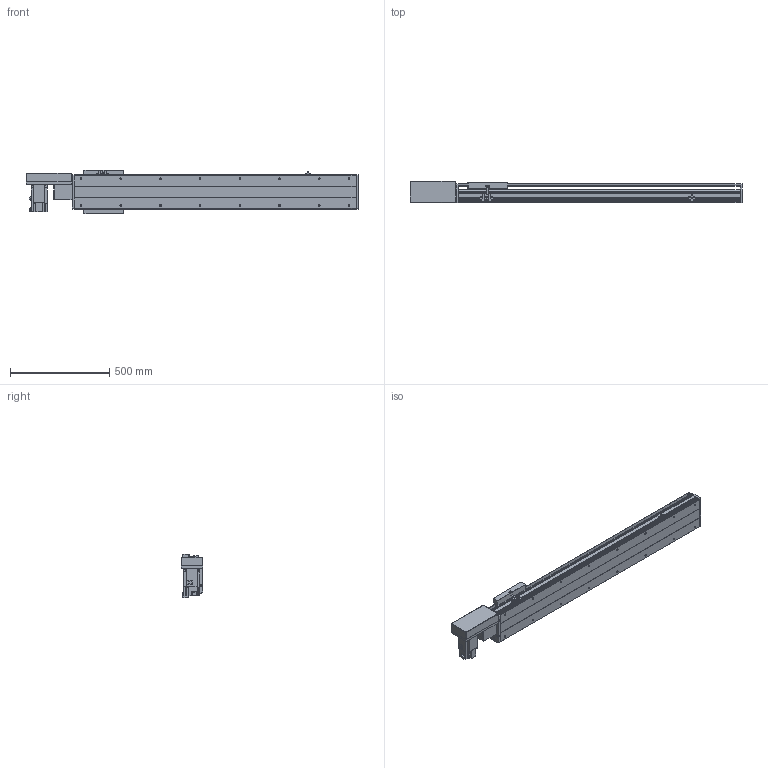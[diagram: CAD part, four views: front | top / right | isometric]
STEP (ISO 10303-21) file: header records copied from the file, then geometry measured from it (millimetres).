
FILE_DESCRIPTION(/* description */ ('STEP AP214'),/* implementation_level */ '2;1');
FILE_NAME(/* name */ 'PBS200-P40-S1050-R-T75-C1-N(0)',/* time_stamp */ '2022-06-11T08:04:40+02:00',/* author */ ('License CC BY-ND 4.0'),/* organization */ ('CADENAS'),/* preprocessor_version */ 'ST-DEVELOPER v18.102',/* originating_system */ 'PARTsolutions',/* authorisation */ ' ');
FILE_SCHEMA (('AUTOMOTIVE_DESIGN {1 0 10303 214 3 1 1}'));
Length unit declared in the file: millimetre
Products named in the file (7): PBS200-P40-S1050-R-T75-C1-N(0); PBS200_sensor; PBS200_plant; PBS200_sliser; T75-p1; PBS200T-R_motors; PBS200-S1050()_body
Assembly tree (8 placements, depth 2):
  PBS200-P40-S1050-R-T75-C1-N(0)
    PBS200_sensor  x3
    PBS200_plant
    PBS200_sliser
    T75-p1
    PBS200T-R_motors
    PBS200-S1050()_body
Bounding box: 1672 x 109 x 221 mm (x, y, z)
Volume: 11549624.3 mm3; surface area: 1868706.8 mm2
Topology: 8 solids, 8 shells, 920 faces, 2374 edges, 1548 vertices
Faces by surface type: plane 574, cylinder 298, cone 48
Full cylindrical faces by diameter (mm): 2.459 x6, 3.242 x4, 4.5 x6, 4.917 x4, 5 x6, 6 x7, 6.6 x8, 6.647 x20, 8 x6, 10 x4, 12 x8, 38 x2, 40 x1, 70 x1
Entity records: 24581 total; most frequent: DIRECTION 4327, CARTESIAN_POINT 4192, ORIENTED_EDGE 3982, EDGE_CURVE 1991, AXIS2_PLACEMENT_3D 1507, VERTEX_POINT 1372, LINE 1313, VECTOR 1313
